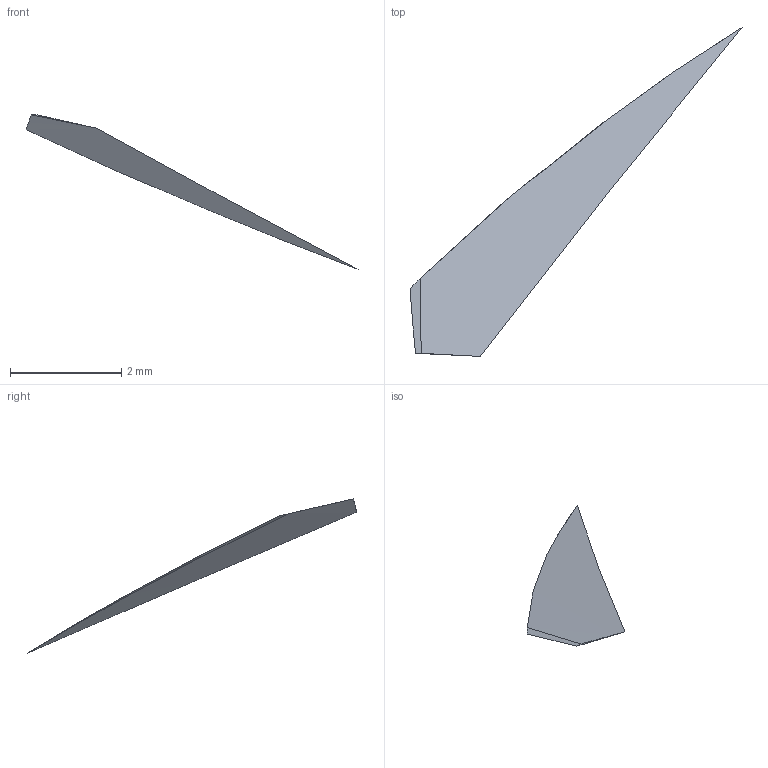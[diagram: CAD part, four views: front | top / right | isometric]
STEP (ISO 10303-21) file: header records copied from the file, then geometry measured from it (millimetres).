
FILE_DESCRIPTION(/* description */ ('STEP AP242 Edition 2','CAx-IF Rec.Pracs.---Representation and Presentation of Product Manufacturing Information (PMI)---4.0---2014-10-13','CAx-IF Rec.Pracs.---3D Tessellated Geometry---0.4---2014-09-14','2;1','CAx-IF Rec.Pracs.---User Defined Attributes---1.5---2016-08-15'),/* implementation_level */ '2;1');
FILE_NAME(/* name */ 'Part Studio 1 - Part 15',/* time_stamp */ '2026-10-19T00:09:51Z',/* author */ (''),/* organization */ (''),/* preprocessor_version */ 'ST-DEVELOPER v20',/* originating_system */ 'ONSHAPE BY PTC INC, 1.222',/* authorisation */ ' ');
FILE_SCHEMA (('AP242_MANAGED_MODEL_BASED_3D_ENGINEERING_MIM_LF { 1 0 10303 442 3 1 4 }'));
Length unit declared in the file: metre
Products named in the file (1): Part 15
Bounding box: 5.97 x 5.91 x 2.77 mm (x, y, z)
Volume: 0.1 mm3; surface area: 17.4 mm2
Topology: 1 solids, 1 shells, 5 faces, 9 edges, 6 vertices
Faces by surface type: cylinder 2, plane 2, cone 1
Entity records: 153 total; most frequent: CARTESIAN_POINT 36, DIRECTION 19, ORIENTED_EDGE 18, EDGE_CURVE 9, AXIS2_PLACEMENT_3D 9, VERTEX_POINT 6, B_SPLINE_CURVE_WITH_KNOTS 5, EDGE_LOOP 5
